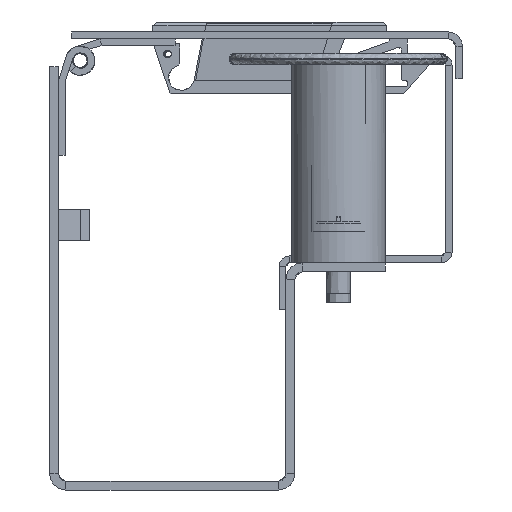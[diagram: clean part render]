
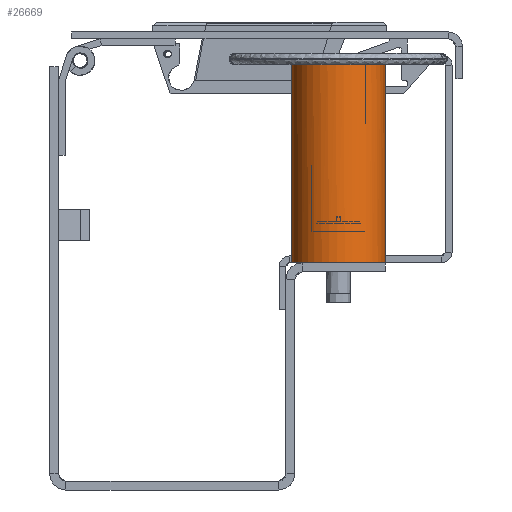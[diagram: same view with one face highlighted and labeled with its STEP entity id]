
A CAD part, front view. The second image highlights one B-rep face of the part: STEP entity #26669.
In plain terms, the highlighted free-form (B-spline) face has degree [2, 1] with [7, 2] control points.
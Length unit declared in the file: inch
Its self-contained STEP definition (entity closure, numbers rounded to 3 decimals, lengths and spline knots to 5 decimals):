
#26594=CARTESIAN_POINT('V1',(41.15269,106.23689,
   19.80976));
#26595=VERTEX_POINT('V1',#26594);
#26596=CARTESIAN_POINT('E1',(41.15269,106.23689,
   19.80976));
#26597=CARTESIAN_POINT('E1',(41.15269,105.58737,
   19.80976));
#26598=CARTESIAN_POINT('E1',(41.71519,105.91213,
   19.80976));
#26599=CARTESIAN_POINT('E1',(42.27769,106.23689,
   19.80976));
#26600=CARTESIAN_POINT('E1',(41.71519,106.56165,
   19.80976));
#26601=CARTESIAN_POINT('E1',(41.15269,106.88641,
   19.80976));
#26602=CARTESIAN_POINT('E1',(41.15269,106.23689,
   19.80976));
#26610=(BOUNDED_CURVE()B_SPLINE_CURVE(2,(#26596,#26597,#26598,
   #26599,#26600,#26601,#26602),.CIRCULAR_ARC.,.T.,.U.)
   B_SPLINE_CURVE_WITH_KNOTS((3,2,2,3),(0.0,0.33333,
   0.66667,1.0),.UNSPECIFIED.)CURVE()
   GEOMETRIC_REPRESENTATION_ITEM()RATIONAL_B_SPLINE_CURVE((1.0,
   0.5,1.0,0.5,1.0,0.5,1.0)
   )REPRESENTATION_ITEM('E1'));
#26611=EDGE_CURVE('E1',#26595,#26595,#26610,.T.);
#26619=CARTESIAN_POINT('F3',(41.15269,106.23689,
   21.48976));
#26620=CARTESIAN_POINT('F3',(41.15269,106.88641,
   21.48976));
#26621=CARTESIAN_POINT('F3',(41.71519,106.56165,
   21.48976));
#26622=CARTESIAN_POINT('F3',(42.27769,106.23689,
   21.48976));
#26623=CARTESIAN_POINT('F3',(41.71519,105.91213,
   21.48976));
#26624=CARTESIAN_POINT('F3',(41.15269,105.58737,
   21.48976));
#26625=CARTESIAN_POINT('F3',(41.15269,106.23689,
   21.48976));
#26626=CARTESIAN_POINT('F3',(41.15269,106.23689,
   19.80976));
#26627=CARTESIAN_POINT('F3',(41.15269,106.88641,
   19.80976));
#26628=CARTESIAN_POINT('F3',(41.71519,106.56165,
   19.80976));
#26629=CARTESIAN_POINT('F3',(42.27769,106.23689,
   19.80976));
#26630=CARTESIAN_POINT('F3',(41.71519,105.91213,
   19.80976));
#26631=CARTESIAN_POINT('F3',(41.15269,105.58737,
   19.80976));
#26632=CARTESIAN_POINT('F3',(41.15269,106.23689,
   19.80976));
#26640=(BOUNDED_SURFACE()B_SPLINE_SURFACE(2,1,((#26619,#26626),(
   #26620,#26627),(#26621,#26628),(#26622,#26629),(#26623,
   #26630),(#26624,#26631),(#26625,#26632)),.CYLINDRICAL_SURF.,
   .T.,.F.,.U.)B_SPLINE_SURFACE_WITH_KNOTS((3,2,2,3),(2,2),(0.0,
   0.77324,1.54647,2.31971),(0.0,1.0),
   .UNSPECIFIED.)GEOMETRIC_REPRESENTATION_ITEM()
   RATIONAL_B_SPLINE_SURFACE(((1.0,1.0),(0.5,
   0.5),(1.0,1.0),(0.5,
   0.5),(1.0,1.0),(0.5,
   0.5),(1.0,1.0)))REPRESENTATION_ITEM('F3')SURFACE()
   );
#26641=CARTESIAN_POINT('V5',(41.15269,106.23689,
   21.39601));
#26642=VERTEX_POINT('V5',#26641);
#26643=CARTESIAN_POINT('E6',(41.15269,106.23689,
   21.39601));
#26644=CARTESIAN_POINT('E6',(41.15269,106.88641,
   21.39601));
#26645=CARTESIAN_POINT('E6',(41.71519,106.56165,
   21.39601));
#26646=CARTESIAN_POINT('E6',(42.27769,106.23689,
   21.39601));
#26647=CARTESIAN_POINT('E6',(41.71519,105.91213,
   21.39601));
#26648=CARTESIAN_POINT('E6',(41.15269,105.58737,
   21.39601));
#26649=CARTESIAN_POINT('E6',(41.15269,106.23689,
   21.39601));
#26657=(BOUNDED_CURVE()B_SPLINE_CURVE(2,(#26643,#26644,#26645,
   #26646,#26647,#26648,#26649),.CIRCULAR_ARC.,.T.,.U.)
   B_SPLINE_CURVE_WITH_KNOTS((3,2,2,3),(0.0,0.33333,
   0.66667,1.0),.UNSPECIFIED.)CURVE()
   GEOMETRIC_REPRESENTATION_ITEM()RATIONAL_B_SPLINE_CURVE((1.0,
   0.5,1.0,0.5,1.0,0.5,1.0)
   )REPRESENTATION_ITEM('E6'));
#26658=EDGE_CURVE('E6',#26642,#26642,#26657,.T.);
#26659=ORIENTED_EDGE('E6',*,*,#26658,.T.);
#26660=CARTESIAN_POINT('E7',(41.15269,106.23689,
   19.80976));
#26661=CARTESIAN_POINT('E7',(41.15269,106.23689,
   21.39601));
#26662=B_SPLINE_CURVE_WITH_KNOTS('E7',1,(#26660,#26661),
   .POLYLINE_FORM.,.F.,.U.,(2,2),(0.0,0.9442),
   .UNSPECIFIED.);
#26663=EDGE_CURVE('E7',#26595,#26642,#26662,.T.);
#26664=ORIENTED_EDGE('E7',*,*,#26663,.F.);
#26665=ORIENTED_EDGE('F1',*,*,#26611,.T.);
#26666=ORIENTED_EDGE('E7',*,*,#26663,.T.);
#26667=EDGE_LOOP('F3',(#26659,#26664,#26665,#26666));
#26668=FACE_OUTER_BOUND('F3',#26667,.T.);
#26669=ADVANCED_FACE('F3',(#26668),#26640,.T.);
